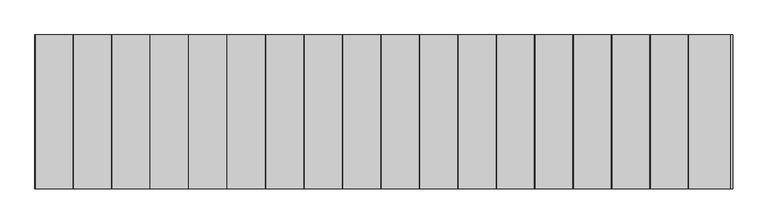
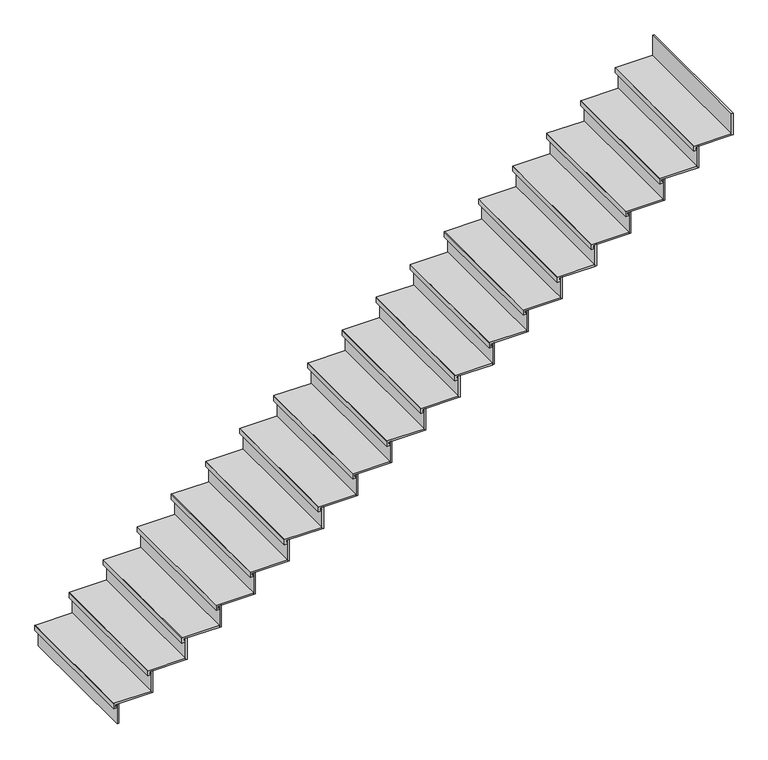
"""IFC4 building model written with IfcOpenShell, lengths in millimetres: stair flight geometry, Forte_StairNosingRun_12.5mmTread_Bullnose."""

from ifc_helpers import new_model, si_unit, point, frame, frame_2d, origin, origin_with_axes, place, context, project, spatial, polyline, circle_curve, trimmed, segment, composite_curve, outline, extrude, source, transform, mapped, element, save


def stair_flight_7e983563(model_context):
    return source(origin(), model_context, "Body", "SweptSolid", [
        extrude(outline(composite_curve([segment(polyline([(166.6666667, -10588.7983088), (166.6666667, -10862.5983088)]), True, "CONTINUOUS"), segment(trimmed(circle_curve(frame_2d((165.4666667, -10862.5983088)), 1.2), [point((166.6666667, -10862.5983088))], [point((165.4666667, -10863.7983088))], False, "CARTESIAN"), True, "CONTINUOUS"), segment(polyline([(165.4666667, -10863.7983088), (126.6666667, -10863.7983088), (126.6666667, -10838.7983088), (139.1666667, -10838.7983088), (139.1666667, -10851.2983088), (154.1666667, -10851.2983088), (154.1666667, -10588.7983088), (166.6666667, -10588.7983088)]), True, "CONTINUOUS")], self_intersect=False)), frame((0.0, 5330.793368, 0.0), z_axis=(0.0, 1.0, 0.0), x_axis=(0.0, 0.0, 1.0)), (0.0, 0.0, 1.0), 1000.0),
        extrude(outline(polyline([(-10826.2983088, 5330.793368), (-10838.7983088, 5330.793368), (-10838.7983088, 6330.793368), (-10826.2983088, 6330.793368), (-10826.2983088, 5330.793368)])), origin_with_axes(), (0.0, 0.0, 1.0), 154.1666667),
        extrude(outline(polyline([(-10576.2983088, 5330.793368), (-10588.7983088, 5330.793368), (-10588.7983088, 6330.793368), (-10576.2983088, 6330.793368), (-10576.2983088, 5330.793368)])), frame((0.0, 0.0, 154.1666667), z_axis=(0.0, 0.0, 1.0), x_axis=(1.0, 0.0, 0.0)), (0.0, 0.0, 1.0), 166.6666667),
        extrude(outline(composite_curve([segment(polyline([(333.3333333, -10338.7983088), (333.3333333, -10612.5983088)]), True, "CONTINUOUS"), segment(trimmed(circle_curve(frame_2d((332.1333333, -10612.5983088)), 1.2), [point((333.3333333, -10612.5983088))], [point((332.1333333, -10613.7983088))], False, "CARTESIAN"), True, "CONTINUOUS"), segment(polyline([(332.1333333, -10613.7983088), (293.3333333, -10613.7983088), (293.3333333, -10588.7983088), (305.8333333, -10588.7983088), (305.8333333, -10601.2983088), (320.8333333, -10601.2983088), (320.8333333, -10338.7983088), (333.3333333, -10338.7983088)]), True, "CONTINUOUS")], self_intersect=False)), frame((0.0, 5330.793368, 0.0), z_axis=(0.0, 1.0, 0.0), x_axis=(0.0, 0.0, 1.0)), (0.0, 0.0, 1.0), 1000.0),
        extrude(outline(polyline([(-10326.2983088, 5330.793368), (-10338.7983088, 5330.793368), (-10338.7983088, 6330.793368), (-10326.2983088, 6330.793368), (-10326.2983088, 5330.793368)])), frame((0.0, 0.0, 320.8333333), z_axis=(0.0, 0.0, 1.0), x_axis=(1.0, 0.0, 0.0)), (0.0, 0.0, 1.0), 166.6666667),
        extrude(outline(composite_curve([segment(polyline([(500.0, -10088.7983088), (500.0, -10362.5983088)]), True, "CONTINUOUS"), segment(trimmed(circle_curve(frame_2d((498.8, -10362.5983088)), 1.2), [point((500.0, -10362.5983088))], [point((498.8, -10363.7983088))], False, "CARTESIAN"), True, "CONTINUOUS"), segment(polyline([(498.8, -10363.7983088), (460.0, -10363.7983088), (460.0, -10338.7983088), (472.5, -10338.7983088), (472.5, -10351.2983088), (487.5, -10351.2983088), (487.5, -10088.7983088), (500.0, -10088.7983088)]), True, "CONTINUOUS")], self_intersect=False)), frame((0.0, 5330.793368, 0.0), z_axis=(0.0, 1.0, 0.0), x_axis=(0.0, 0.0, 1.0)), (0.0, 0.0, 1.0), 1000.0),
        extrude(outline(polyline([(-10076.2983088, 5330.793368), (-10088.7983088, 5330.793368), (-10088.7983088, 6330.793368), (-10076.2983088, 6330.793368), (-10076.2983088, 5330.793368)])), frame((0.0, 0.0, 487.5), z_axis=(0.0, 0.0, 1.0), x_axis=(1.0, 0.0, 0.0)), (0.0, 0.0, 1.0), 166.6666667),
        extrude(outline(composite_curve([segment(polyline([(666.6666667, -9838.7983088), (666.6666667, -10112.5983088)]), True, "CONTINUOUS"), segment(trimmed(circle_curve(frame_2d((665.4666667, -10112.5983088)), 1.2), [point((666.6666667, -10112.5983088))], [point((665.4666667, -10113.7983088))], False, "CARTESIAN"), True, "CONTINUOUS"), segment(polyline([(665.4666667, -10113.7983088), (626.6666667, -10113.7983088), (626.6666667, -10088.7983088), (639.1666667, -10088.7983088), (639.1666667, -10101.2983088), (654.1666667, -10101.2983088), (654.1666667, -9838.7983088), (666.6666667, -9838.7983088)]), True, "CONTINUOUS")], self_intersect=False)), frame((0.0, 5330.793368, 0.0), z_axis=(0.0, 1.0, 0.0), x_axis=(0.0, 0.0, 1.0)), (0.0, 0.0, 1.0), 1000.0),
        extrude(outline(polyline([(-9826.2983088, 5330.793368), (-9838.7983088, 5330.793368), (-9838.7983088, 6330.793368), (-9826.2983088, 6330.793368), (-9826.2983088, 5330.793368)])), frame((0.0, 0.0, 654.1666667), z_axis=(0.0, 0.0, 1.0), x_axis=(1.0, 0.0, 0.0)), (0.0, 0.0, 1.0), 166.6666667),
        extrude(outline(composite_curve([segment(polyline([(833.3333333, -9588.7983088), (833.3333333, -9862.5983088)]), True, "CONTINUOUS"), segment(trimmed(circle_curve(frame_2d((832.1333333, -9862.5983088)), 1.2), [point((833.3333333, -9862.5983088))], [point((832.1333333, -9863.7983088))], False, "CARTESIAN"), True, "CONTINUOUS"), segment(polyline([(832.1333333, -9863.7983088), (793.3333333, -9863.7983088), (793.3333333, -9838.7983088), (805.8333333, -9838.7983088), (805.8333333, -9851.2983088), (820.8333333, -9851.2983088), (820.8333333, -9588.7983088), (833.3333333, -9588.7983088)]), True, "CONTINUOUS")], self_intersect=False)), frame((0.0, 5330.793368, 0.0), z_axis=(0.0, 1.0, 0.0), x_axis=(0.0, 0.0, 1.0)), (0.0, 0.0, 1.0), 1000.0),
        extrude(outline(polyline([(-9576.2983088, 5330.793368), (-9588.7983088, 5330.793368), (-9588.7983088, 6330.793368), (-9576.2983088, 6330.793368), (-9576.2983088, 5330.793368)])), frame((0.0, 0.0, 820.8333333), z_axis=(0.0, 0.0, 1.0), x_axis=(1.0, 0.0, 0.0)), (0.0, 0.0, 1.0), 166.6666667),
        extrude(outline(composite_curve([segment(polyline([(1000.0, -9338.7983088), (1000.0, -9612.5983088)]), True, "CONTINUOUS"), segment(trimmed(circle_curve(frame_2d((998.8, -9612.5983088)), 1.2), [point((1000.0, -9612.5983088))], [point((998.8, -9613.7983088))], False, "CARTESIAN"), True, "CONTINUOUS"), segment(polyline([(998.8, -9613.7983088), (960.0, -9613.7983088), (960.0, -9588.7983088), (972.5, -9588.7983088), (972.5, -9601.2983088), (987.5, -9601.2983088), (987.5, -9338.7983088), (1000.0, -9338.7983088)]), True, "CONTINUOUS")], self_intersect=False)), frame((0.0, 5330.793368, 0.0), z_axis=(0.0, 1.0, 0.0), x_axis=(0.0, 0.0, 1.0)), (0.0, 0.0, 1.0), 1000.0),
        extrude(outline(polyline([(-9326.2983088, 5330.793368), (-9338.7983088, 5330.793368), (-9338.7983088, 6330.793368), (-9326.2983088, 6330.793368), (-9326.2983088, 5330.793368)])), frame((0.0, 0.0, 987.5), z_axis=(0.0, 0.0, 1.0), x_axis=(1.0, 0.0, 0.0)), (0.0, 0.0, 1.0), 166.6666667),
        extrude(outline(composite_curve([segment(polyline([(1166.6666667, -9088.7983088), (1166.6666667, -9362.5983088)]), True, "CONTINUOUS"), segment(trimmed(circle_curve(frame_2d((1165.4666667, -9362.5983088)), 1.2), [point((1166.6666667, -9362.5983088))], [point((1165.4666667, -9363.7983088))], False, "CARTESIAN"), True, "CONTINUOUS"), segment(polyline([(1165.4666667, -9363.7983088), (1126.6666667, -9363.7983088), (1126.6666667, -9338.7983088), (1139.1666667, -9338.7983088), (1139.1666667, -9351.2983088), (1154.1666667, -9351.2983088), (1154.1666667, -9088.7983088), (1166.6666667, -9088.7983088)]), True, "CONTINUOUS")], self_intersect=False)), frame((0.0, 5330.793368, 0.0), z_axis=(0.0, 1.0, 0.0), x_axis=(0.0, 0.0, 1.0)), (0.0, 0.0, 1.0), 1000.0),
        extrude(outline(polyline([(-9076.2983088, 5330.793368), (-9088.7983088, 5330.793368), (-9088.7983088, 6330.793368), (-9076.2983088, 6330.793368), (-9076.2983088, 5330.793368)])), frame((0.0, 0.0, 1154.1666667), z_axis=(0.0, 0.0, 1.0), x_axis=(1.0, 0.0, 0.0)), (0.0, 0.0, 1.0), 166.6666667),
        extrude(outline(composite_curve([segment(polyline([(1333.3333333, -8838.7983088), (1333.3333333, -9112.5983088)]), True, "CONTINUOUS"), segment(trimmed(circle_curve(frame_2d((1332.1333333, -9112.5983088)), 1.2), [point((1333.3333333, -9112.5983088))], [point((1332.1333333, -9113.7983088))], False, "CARTESIAN"), True, "CONTINUOUS"), segment(polyline([(1332.1333333, -9113.7983088), (1293.3333333, -9113.7983088), (1293.3333333, -9088.7983088), (1305.8333333, -9088.7983088), (1305.8333333, -9101.2983088), (1320.8333333, -9101.2983088), (1320.8333333, -8838.7983088), (1333.3333333, -8838.7983088)]), True, "CONTINUOUS")], self_intersect=False)), frame((0.0, 5330.793368, 0.0), z_axis=(0.0, 1.0, 0.0), x_axis=(0.0, 0.0, 1.0)), (0.0, 0.0, 1.0), 1000.0),
        extrude(outline(polyline([(-8826.2983088, 5330.793368), (-8838.7983088, 5330.793368), (-8838.7983088, 6330.793368), (-8826.2983088, 6330.793368), (-8826.2983088, 5330.793368)])), frame((0.0, 0.0, 1320.8333333), z_axis=(0.0, 0.0, 1.0), x_axis=(1.0, 0.0, 0.0)), (0.0, 0.0, 1.0), 166.6666667),
        extrude(outline(composite_curve([segment(polyline([(1500.0, -8588.7983088), (1500.0, -8862.5983088)]), True, "CONTINUOUS"), segment(trimmed(circle_curve(frame_2d((1498.8, -8862.5983088)), 1.2), [point((1500.0, -8862.5983088))], [point((1498.8, -8863.7983088))], False, "CARTESIAN"), True, "CONTINUOUS"), segment(polyline([(1498.8, -8863.7983088), (1460.0, -8863.7983088), (1460.0, -8838.7983088), (1472.5, -8838.7983088), (1472.5, -8851.2983088), (1487.5, -8851.2983088), (1487.5, -8588.7983088), (1500.0, -8588.7983088)]), True, "CONTINUOUS")], self_intersect=False)), frame((0.0, 5330.793368, 0.0), z_axis=(0.0, 1.0, 0.0), x_axis=(0.0, 0.0, 1.0)), (0.0, 0.0, 1.0), 1000.0),
        extrude(outline(polyline([(-8576.2983088, 5330.793368), (-8588.7983088, 5330.793368), (-8588.7983088, 6330.793368), (-8576.2983088, 6330.793368), (-8576.2983088, 5330.793368)])), frame((0.0, 0.0, 1487.5), z_axis=(0.0, 0.0, 1.0), x_axis=(1.0, 0.0, 0.0)), (0.0, 0.0, 1.0), 166.6666667),
        extrude(outline(composite_curve([segment(polyline([(1666.6666667, -8338.7983088), (1666.6666667, -8612.5983088)]), True, "CONTINUOUS"), segment(trimmed(circle_curve(frame_2d((1665.4666667, -8612.5983088)), 1.2), [point((1666.6666667, -8612.5983088))], [point((1665.4666667, -8613.7983088))], False, "CARTESIAN"), True, "CONTINUOUS"), segment(polyline([(1665.4666667, -8613.7983088), (1626.6666667, -8613.7983088), (1626.6666667, -8588.7983088), (1639.1666667, -8588.7983088), (1639.1666667, -8601.2983088), (1654.1666667, -8601.2983088), (1654.1666667, -8338.7983088), (1666.6666667, -8338.7983088)]), True, "CONTINUOUS")], self_intersect=False)), frame((0.0, 5330.793368, 0.0), z_axis=(0.0, 1.0, 0.0), x_axis=(0.0, 0.0, 1.0)), (0.0, 0.0, 1.0), 1000.0),
        extrude(outline(polyline([(-8326.2983088, 5330.793368), (-8338.7983088, 5330.793368), (-8338.7983088, 6330.793368), (-8326.2983088, 6330.793368), (-8326.2983088, 5330.793368)])), frame((0.0, 0.0, 1654.1666667), z_axis=(0.0, 0.0, 1.0), x_axis=(1.0, 0.0, 0.0)), (0.0, 0.0, 1.0), 166.6666667),
        extrude(outline(composite_curve([segment(polyline([(1833.3333333, -8088.7983088), (1833.3333333, -8362.5983088)]), True, "CONTINUOUS"), segment(trimmed(circle_curve(frame_2d((1832.1333333, -8362.5983088)), 1.2), [point((1833.3333333, -8362.5983088))], [point((1832.1333333, -8363.7983088))], False, "CARTESIAN"), True, "CONTINUOUS"), segment(polyline([(1832.1333333, -8363.7983088), (1793.3333333, -8363.7983088), (1793.3333333, -8338.7983088), (1805.8333333, -8338.7983088), (1805.8333333, -8351.2983088), (1820.8333333, -8351.2983088), (1820.8333333, -8088.7983088), (1833.3333333, -8088.7983088)]), True, "CONTINUOUS")], self_intersect=False)), frame((0.0, 5330.793368, 0.0), z_axis=(0.0, 1.0, 0.0), x_axis=(0.0, 0.0, 1.0)), (0.0, 0.0, 1.0), 1000.0),
        extrude(outline(polyline([(-8076.2983088, 5330.793368), (-8088.7983088, 5330.793368), (-8088.7983088, 6330.793368), (-8076.2983088, 6330.793368), (-8076.2983088, 5330.793368)])), frame((0.0, 0.0, 1820.8333333), z_axis=(0.0, 0.0, 1.0), x_axis=(1.0, 0.0, 0.0)), (0.0, 0.0, 1.0), 166.6666667),
        extrude(outline(composite_curve([segment(polyline([(2000.0, -7838.7983088), (2000.0, -8112.5983088)]), True, "CONTINUOUS"), segment(trimmed(circle_curve(frame_2d((1998.8, -8112.5983088)), 1.2), [point((2000.0, -8112.5983088))], [point((1998.8, -8113.7983088))], False, "CARTESIAN"), True, "CONTINUOUS"), segment(polyline([(1998.8, -8113.7983088), (1960.0, -8113.7983088), (1960.0, -8088.7983088), (1972.5, -8088.7983088), (1972.5, -8101.2983088), (1987.5, -8101.2983088), (1987.5, -7838.7983088), (2000.0, -7838.7983088)]), True, "CONTINUOUS")], self_intersect=False)), frame((0.0, 5330.793368, 0.0), z_axis=(0.0, 1.0, 0.0), x_axis=(0.0, 0.0, 1.0)), (0.0, 0.0, 1.0), 1000.0),
        extrude(outline(polyline([(-7826.2983088, 5330.793368), (-7838.7983088, 5330.793368), (-7838.7983088, 6330.793368), (-7826.2983088, 6330.793368), (-7826.2983088, 5330.793368)])), frame((0.0, 0.0, 1987.5), z_axis=(0.0, 0.0, 1.0), x_axis=(1.0, 0.0, 0.0)), (0.0, 0.0, 1.0), 166.6666667),
        extrude(outline(composite_curve([segment(polyline([(2166.6666667, -7588.7983088), (2166.6666667, -7862.5983088)]), True, "CONTINUOUS"), segment(trimmed(circle_curve(frame_2d((2165.4666667, -7862.5983088)), 1.2), [point((2166.6666667, -7862.5983088))], [point((2165.4666667, -7863.7983088))], False, "CARTESIAN"), True, "CONTINUOUS"), segment(polyline([(2165.4666667, -7863.7983088), (2126.6666667, -7863.7983088), (2126.6666667, -7838.7983088), (2139.1666667, -7838.7983088), (2139.1666667, -7851.2983088), (2154.1666667, -7851.2983088), (2154.1666667, -7588.7983088), (2166.6666667, -7588.7983088)]), True, "CONTINUOUS")], self_intersect=False)), frame((0.0, 5330.793368, 0.0), z_axis=(0.0, 1.0, 0.0), x_axis=(0.0, 0.0, 1.0)), (0.0, 0.0, 1.0), 1000.0),
        extrude(outline(polyline([(-7576.2983088, 5330.793368), (-7588.7983088, 5330.793368), (-7588.7983088, 6330.793368), (-7576.2983088, 6330.793368), (-7576.2983088, 5330.793368)])), frame((0.0, 0.0, 2154.1666667), z_axis=(0.0, 0.0, 1.0), x_axis=(1.0, 0.0, 0.0)), (0.0, 0.0, 1.0), 166.6666667),
        extrude(outline(composite_curve([segment(polyline([(2333.3333333, -7338.7983088), (2333.3333333, -7612.5983088)]), True, "CONTINUOUS"), segment(trimmed(circle_curve(frame_2d((2332.1333333, -7612.5983088)), 1.2), [point((2333.3333333, -7612.5983088))], [point((2332.1333333, -7613.7983088))], False, "CARTESIAN"), True, "CONTINUOUS"), segment(polyline([(2332.1333333, -7613.7983088), (2293.3333333, -7613.7983088), (2293.3333333, -7588.7983088), (2305.8333333, -7588.7983088), (2305.8333333, -7601.2983088), (2320.8333333, -7601.2983088), (2320.8333333, -7338.7983088), (2333.3333333, -7338.7983088)]), True, "CONTINUOUS")], self_intersect=False)), frame((0.0, 5330.793368, 0.0), z_axis=(0.0, 1.0, 0.0), x_axis=(0.0, 0.0, 1.0)), (0.0, 0.0, 1.0), 1000.0),
        extrude(outline(polyline([(-7326.2983088, 5330.793368), (-7338.7983088, 5330.793368), (-7338.7983088, 6330.793368), (-7326.2983088, 6330.793368), (-7326.2983088, 5330.793368)])), frame((0.0, 0.0, 2320.8333333), z_axis=(0.0, 0.0, 1.0), x_axis=(1.0, 0.0, 0.0)), (0.0, 0.0, 1.0), 166.6666667),
        extrude(outline(composite_curve([segment(polyline([(2500.0, -7088.7983088), (2500.0, -7362.5983088)]), True, "CONTINUOUS"), segment(trimmed(circle_curve(frame_2d((2498.8, -7362.5983088)), 1.2), [point((2500.0, -7362.5983088))], [point((2498.8, -7363.7983088))], False, "CARTESIAN"), True, "CONTINUOUS"), segment(polyline([(2498.8, -7363.7983088), (2460.0, -7363.7983088), (2460.0, -7338.7983088), (2472.5, -7338.7983088), (2472.5, -7351.2983088), (2487.5, -7351.2983088), (2487.5, -7088.7983088), (2500.0, -7088.7983088)]), True, "CONTINUOUS")], self_intersect=False)), frame((0.0, 5330.793368, 0.0), z_axis=(0.0, 1.0, 0.0), x_axis=(0.0, 0.0, 1.0)), (0.0, 0.0, 1.0), 1000.0),
        extrude(outline(polyline([(-7076.2983088, 5330.793368), (-7088.7983088, 5330.793368), (-7088.7983088, 6330.793368), (-7076.2983088, 6330.793368), (-7076.2983088, 5330.793368)])), frame((0.0, 0.0, 2487.5), z_axis=(0.0, 0.0, 1.0), x_axis=(1.0, 0.0, 0.0)), (0.0, 0.0, 1.0), 166.6666667),
        extrude(outline(composite_curve([segment(polyline([(2666.6666667, -6838.7983088), (2666.6666667, -7112.5983088)]), True, "CONTINUOUS"), segment(trimmed(circle_curve(frame_2d((2665.4666667, -7112.5983088)), 1.2), [point((2666.6666667, -7112.5983088))], [point((2665.4666667, -7113.7983088))], False, "CARTESIAN"), True, "CONTINUOUS"), segment(polyline([(2665.4666667, -7113.7983088), (2626.6666667, -7113.7983088), (2626.6666667, -7088.7983088), (2639.1666667, -7088.7983088), (2639.1666667, -7101.2983088), (2654.1666667, -7101.2983088), (2654.1666667, -6838.7983088), (2666.6666667, -6838.7983088)]), True, "CONTINUOUS")], self_intersect=False)), frame((0.0, 5330.793368, 0.0), z_axis=(0.0, 1.0, 0.0), x_axis=(0.0, 0.0, 1.0)), (0.0, 0.0, 1.0), 1000.0),
        extrude(outline(polyline([(-6826.2983088, 5330.793368), (-6838.7983088, 5330.793368), (-6838.7983088, 6330.793368), (-6826.2983088, 6330.793368), (-6826.2983088, 5330.793368)])), frame((0.0, 0.0, 2654.1666667), z_axis=(0.0, 0.0, 1.0), x_axis=(1.0, 0.0, 0.0)), (0.0, 0.0, 1.0), 166.6666667),
        extrude(outline(composite_curve([segment(polyline([(2833.3333333, -6588.7983088), (2833.3333333, -6862.5983088)]), True, "CONTINUOUS"), segment(trimmed(circle_curve(frame_2d((2832.1333333, -6862.5983088)), 1.2), [point((2833.3333333, -6862.5983088))], [point((2832.1333333, -6863.7983088))], False, "CARTESIAN"), True, "CONTINUOUS"), segment(polyline([(2832.1333333, -6863.7983088), (2793.3333333, -6863.7983088), (2793.3333333, -6838.7983088), (2805.8333333, -6838.7983088), (2805.8333333, -6851.2983088), (2820.8333333, -6851.2983088), (2820.8333333, -6588.7983088), (2833.3333333, -6588.7983088)]), True, "CONTINUOUS")], self_intersect=False)), frame((0.0, 5330.793368, 0.0), z_axis=(0.0, 1.0, 0.0), x_axis=(0.0, 0.0, 1.0)), (0.0, 0.0, 1.0), 1000.0),
        extrude(outline(polyline([(-6576.2983088, 5330.793368), (-6588.7983088, 5330.793368), (-6588.7983088, 6330.793368), (-6576.2983088, 6330.793368), (-6576.2983088, 5330.793368)])), frame((0.0, 0.0, 2820.8333333), z_axis=(0.0, 0.0, 1.0), x_axis=(1.0, 0.0, 0.0)), (0.0, 0.0, 1.0), 166.6666667),
        extrude(outline(polyline([(-6326.2983088, 5330.793368), (-6338.7983088, 5330.793368), (-6338.7983088, 6330.793368), (-6326.2983088, 6330.793368), (-6326.2983088, 5330.793368)])), frame((0.0, 0.0, 2987.5), z_axis=(0.0, 0.0, 1.0), x_axis=(1.0, 0.0, 0.0)), (0.0, 0.0, 1.0), 166.6666667),
        extrude(outline(composite_curve([segment(polyline([(3000.0, -6338.7983088), (3000.0, -6612.5983088)]), True, "CONTINUOUS"), segment(trimmed(circle_curve(frame_2d((2998.8, -6612.5983088)), 1.2), [point((3000.0, -6612.5983088))], [point((2998.8, -6613.7983088))], False, "CARTESIAN"), True, "CONTINUOUS"), segment(polyline([(2998.8, -6613.7983088), (2960.0, -6613.7983088), (2960.0, -6588.7983088), (2972.5, -6588.7983088), (2972.5, -6601.2983088), (2987.5, -6601.2983088), (2987.5, -6338.7983088), (3000.0, -6338.7983088)]), True, "CONTINUOUS")], self_intersect=False)), frame((0.0, 5330.793368, 0.0), z_axis=(0.0, 1.0, 0.0), x_axis=(0.0, 0.0, 1.0)), (0.0, 0.0, 1.0), 1000.0),
    ])


if __name__ == "__main__":
    model = new_model("IFC4")
    model_context = context("Model", 3, world=origin())
    ifc_project = project(units=[si_unit("LENGTHUNIT", "METRE", prefix="MILLI")], contexts=[model_context])
    site = spatial("IfcSite", under=ifc_project)
    building = spatial("IfcBuilding", under=site)
    placement = place(None, origin())
    stair_flight_shape = stair_flight_7e983563(model_context)
    element("IfcStairFlight", 1, ObjectType="Forte_StairNosingRun_12.5mmTread_Bullnose", at=placement, inside=building, context=model_context, shape_type="MappedRepresentation", body=[
        mapped(stair_flight_shape, transform((0.0, 0.0, 0.0), x_axis=(1.0, 0.0, 0.0), y_axis=(0.0, 1.0, 0.0), z_axis=(0.0, 0.0, 1.0))),
    ])
    save(model, "model.ifc")
